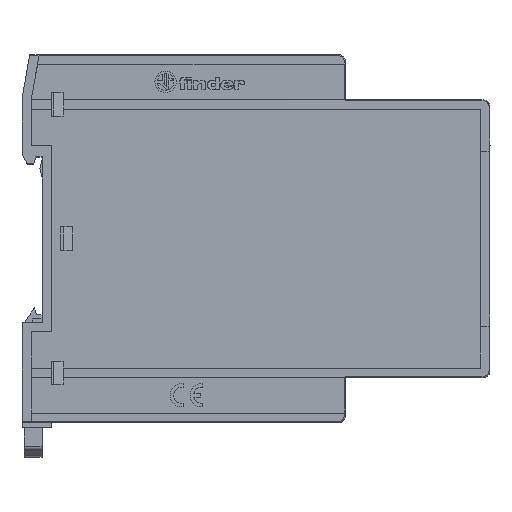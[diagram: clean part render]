
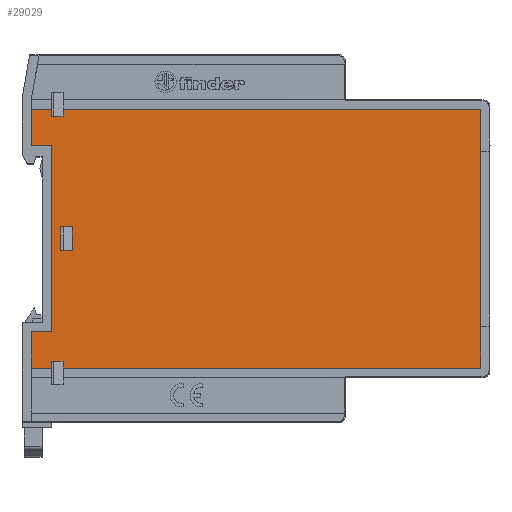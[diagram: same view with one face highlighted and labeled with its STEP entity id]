
A CAD part, top view. The second image highlights one B-rep face of the part: STEP entity #29029.
In plain terms, the highlighted planar face has unit normal (0, 0, 1).
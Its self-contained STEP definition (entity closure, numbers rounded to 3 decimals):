
#525=PLANE('',#37699);
#2747=ORIENTED_EDGE('',*,*,#10021,.T.);
#2748=ORIENTED_EDGE('',*,*,#10022,.T.);
#2749=ORIENTED_EDGE('',*,*,#10023,.T.);
#2750=ORIENTED_EDGE('',*,*,#10024,.T.);
#2751=ORIENTED_EDGE('',*,*,#10025,.T.);
#2752=ORIENTED_EDGE('',*,*,#10026,.T.);
#2753=ORIENTED_EDGE('',*,*,#9959,.F.);
#2754=ORIENTED_EDGE('',*,*,#10020,.F.);
#2755=ORIENTED_EDGE('',*,*,#9932,.F.);
#2756=ORIENTED_EDGE('',*,*,#10027,.T.);
#2757=ORIENTED_EDGE('',*,*,#10028,.T.);
#2758=ORIENTED_EDGE('',*,*,#10029,.T.);
#2759=ORIENTED_EDGE('',*,*,#10030,.T.);
#2760=ORIENTED_EDGE('',*,*,#10031,.T.);
#2761=ORIENTED_EDGE('',*,*,#10032,.T.);
#2762=ORIENTED_EDGE('',*,*,#10033,.T.);
#2763=ORIENTED_EDGE('',*,*,#10034,.T.);
#2764=ORIENTED_EDGE('',*,*,#10035,.T.);
#2765=ORIENTED_EDGE('',*,*,#10036,.T.);
#2766=ORIENTED_EDGE('',*,*,#10037,.T.);
#9932=EDGE_CURVE('',#14701,#14702,#18274,.T.);
#9959=EDGE_CURVE('',#14723,#14724,#18292,.T.);
#10020=EDGE_CURVE('',#14702,#14723,#18348,.T.);
#10021=EDGE_CURVE('',#14780,#14781,#18349,.T.);
#10022=EDGE_CURVE('',#14781,#14782,#18350,.T.);
#10023=EDGE_CURVE('',#14782,#14783,#18351,.T.);
#10024=EDGE_CURVE('',#14783,#14780,#18352,.T.);
#10025=EDGE_CURVE('',#14784,#14785,#18353,.T.);
#10026=EDGE_CURVE('',#14785,#14724,#18354,.T.);
#10027=EDGE_CURVE('',#14701,#14786,#18355,.T.);
#10028=EDGE_CURVE('',#14786,#14787,#18356,.T.);
#10029=EDGE_CURVE('',#14787,#14788,#18357,.T.);
#10030=EDGE_CURVE('',#14788,#14789,#18358,.T.);
#10031=EDGE_CURVE('',#14789,#14790,#18359,.T.);
#10032=EDGE_CURVE('',#14790,#14791,#18360,.T.);
#10033=EDGE_CURVE('',#14791,#14792,#18361,.T.);
#10034=EDGE_CURVE('',#14792,#14793,#18362,.T.);
#10035=EDGE_CURVE('',#14793,#14794,#18363,.T.);
#10036=EDGE_CURVE('',#14794,#14795,#18364,.T.);
#10037=EDGE_CURVE('',#14795,#14784,#18365,.T.);
#14701=VERTEX_POINT('',#48100);
#14702=VERTEX_POINT('',#48102);
#14723=VERTEX_POINT('',#48173);
#14724=VERTEX_POINT('',#48174);
#14780=VERTEX_POINT('',#48337);
#14781=VERTEX_POINT('',#48338);
#14782=VERTEX_POINT('',#48340);
#14783=VERTEX_POINT('',#48342);
#14784=VERTEX_POINT('',#48345);
#14785=VERTEX_POINT('',#48346);
#14786=VERTEX_POINT('',#48349);
#14787=VERTEX_POINT('',#48351);
#14788=VERTEX_POINT('',#48353);
#14789=VERTEX_POINT('',#48355);
#14790=VERTEX_POINT('',#48357);
#14791=VERTEX_POINT('',#48359);
#14792=VERTEX_POINT('',#48361);
#14793=VERTEX_POINT('',#48363);
#14794=VERTEX_POINT('',#48365);
#14795=VERTEX_POINT('',#48367);
#18274=LINE('',#48101,#22177);
#18292=LINE('',#48172,#22195);
#18348=LINE('',#48334,#22251);
#18349=LINE('',#48336,#22252);
#18350=LINE('',#48339,#22253);
#18351=LINE('',#48341,#22254);
#18352=LINE('',#48343,#22255);
#18353=LINE('',#48344,#22256);
#18354=LINE('',#48347,#22257);
#18355=LINE('',#48348,#22258);
#18356=LINE('',#48350,#22259);
#18357=LINE('',#48352,#22260);
#18358=LINE('',#48354,#22261);
#18359=LINE('',#48356,#22262);
#18360=LINE('',#48358,#22263);
#18361=LINE('',#48360,#22264);
#18362=LINE('',#48362,#22265);
#18363=LINE('',#48364,#22266);
#18364=LINE('',#48366,#22267);
#18365=LINE('',#48368,#22268);
#22177=VECTOR('',#40063,1000.);
#22195=VECTOR('',#40099,1000.);
#22251=VECTOR('',#40173,1000.);
#22252=VECTOR('',#40176,1000.);
#22253=VECTOR('',#40177,1000.);
#22254=VECTOR('',#40178,1000.);
#22255=VECTOR('',#40179,1000.);
#22256=VECTOR('',#40180,1000.);
#22257=VECTOR('',#40181,1000.);
#22258=VECTOR('',#40182,1000.);
#22259=VECTOR('',#40183,1000.);
#22260=VECTOR('',#40184,1000.);
#22261=VECTOR('',#40185,1000.);
#22262=VECTOR('',#40186,1000.);
#22263=VECTOR('',#40187,1000.);
#22264=VECTOR('',#40188,1000.);
#22265=VECTOR('',#40189,1000.);
#22266=VECTOR('',#40190,1000.);
#22267=VECTOR('',#40191,1000.);
#22268=VECTOR('',#40192,1000.);
#25901=EDGE_LOOP('',(#2747,#2748,#2749,#2750));
#25902=EDGE_LOOP('',(#2751,#2752,#2753,#2754,#2755,#2756,#2757,#2758,#2759,
#2760,#2761,#2762,#2763,#2764,#2765,#2766));
#27315=FACE_BOUND('',#25901,.T.);
#27316=FACE_BOUND('',#25902,.T.);
#29029=ADVANCED_FACE('',(#27315,#27316),#525,.T.);
#37699=AXIS2_PLACEMENT_3D('',#48335,#40174,#40175);
#40063=DIRECTION('',(0.,-1.,0.));
#40099=DIRECTION('',(0.,1.,0.));
#40173=DIRECTION('',(1.,0.,0.));
#40174=DIRECTION('',(0.,0.,1.));
#40175=DIRECTION('',(1.,0.,0.));
#40176=DIRECTION('',(1.,0.,0.));
#40177=DIRECTION('',(0.,-1.,0.));
#40178=DIRECTION('',(-1.,0.,0.));
#40179=DIRECTION('',(0.,1.,0.));
#40180=DIRECTION('',(0.,1.,0.));
#40181=DIRECTION('',(-1.,0.,0.));
#40182=DIRECTION('',(-1.,0.,0.));
#40183=DIRECTION('',(0.,-1.,0.));
#40184=DIRECTION('',(1.,0.,0.));
#40185=DIRECTION('',(0.,-1.,0.));
#40186=DIRECTION('',(-1.,0.,0.));
#40187=DIRECTION('',(0.,-1.,0.));
#40188=DIRECTION('',(1.,0.,0.));
#40189=DIRECTION('',(0.,1.,0.));
#40190=DIRECTION('',(1.,0.,0.));
#40191=DIRECTION('',(0.,-1.,0.));
#40192=DIRECTION('',(1.,0.,0.));
#48100=CARTESIAN_POINT('',(-80.808,-5.828,22.5));
#48101=CARTESIAN_POINT('',(-80.808,-6.578,22.5));
#48102=CARTESIAN_POINT('',(-80.808,-7.328,22.5));
#48172=CARTESIAN_POINT('',(-78.308,-6.578,22.5));
#48173=CARTESIAN_POINT('',(-78.308,-7.328,22.5));
#48174=CARTESIAN_POINT('',(-78.308,-5.828,22.5));
#48334=CARTESIAN_POINT('',(-79.558,-7.328,22.5));
#48335=CARTESIAN_POINT('',(-86.071,-62.291,22.5));
#48336=CARTESIAN_POINT('',(-77.558,-31.078,22.5));
#48337=CARTESIAN_POINT('',(-78.808,-31.078,22.5));
#48338=CARTESIAN_POINT('',(-76.308,-31.078,22.5));
#48339=CARTESIAN_POINT('',(-76.308,-33.578,22.5));
#48340=CARTESIAN_POINT('',(-76.308,-36.078,22.5));
#48341=CARTESIAN_POINT('',(-77.558,-36.078,22.5));
#48342=CARTESIAN_POINT('',(-78.808,-36.078,22.5));
#48343=CARTESIAN_POINT('',(-78.808,-33.578,22.5));
#48344=CARTESIAN_POINT('',(11.192,-33.578,22.5));
#48345=CARTESIAN_POINT('',(11.192,-61.328,22.5));
#48346=CARTESIAN_POINT('',(11.192,-5.828,22.5));
#48347=CARTESIAN_POINT('',(-33.558,-5.828,22.5));
#48348=CARTESIAN_POINT('',(-82.958,-5.828,22.5));
#48349=CARTESIAN_POINT('',(-85.108,-5.828,22.5));
#48350=CARTESIAN_POINT('',(-85.108,-9.703,22.5));
#48351=CARTESIAN_POINT('',(-85.108,-13.578,22.5));
#48352=CARTESIAN_POINT('',(-82.958,-13.578,22.5));
#48353=CARTESIAN_POINT('',(-80.808,-13.578,22.5));
#48354=CARTESIAN_POINT('',(-80.808,-33.578,22.5));
#48355=CARTESIAN_POINT('',(-80.808,-53.578,22.5));
#48356=CARTESIAN_POINT('',(-82.958,-53.578,22.5));
#48357=CARTESIAN_POINT('',(-85.108,-53.578,22.5));
#48358=CARTESIAN_POINT('',(-85.108,-57.453,22.5));
#48359=CARTESIAN_POINT('',(-85.108,-61.328,22.5));
#48360=CARTESIAN_POINT('',(-82.958,-61.328,22.5));
#48361=CARTESIAN_POINT('',(-80.808,-61.328,22.5));
#48362=CARTESIAN_POINT('',(-80.808,-60.578,22.5));
#48363=CARTESIAN_POINT('',(-80.808,-59.828,22.5));
#48364=CARTESIAN_POINT('',(-79.558,-59.828,22.5));
#48365=CARTESIAN_POINT('',(-78.308,-59.828,22.5));
#48366=CARTESIAN_POINT('',(-78.308,-60.578,22.5));
#48367=CARTESIAN_POINT('',(-78.308,-61.328,22.5));
#48368=CARTESIAN_POINT('',(-33.558,-61.328,22.5));
